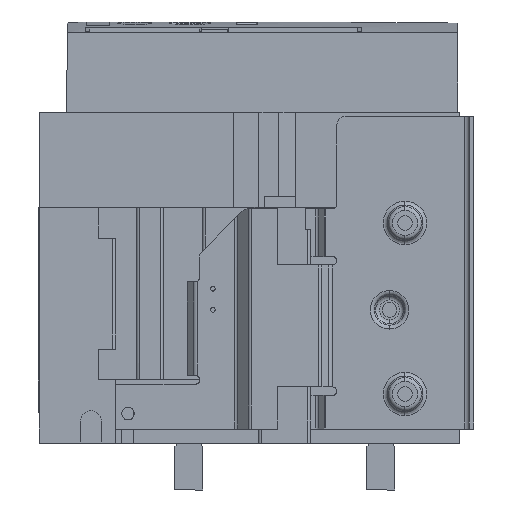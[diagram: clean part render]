
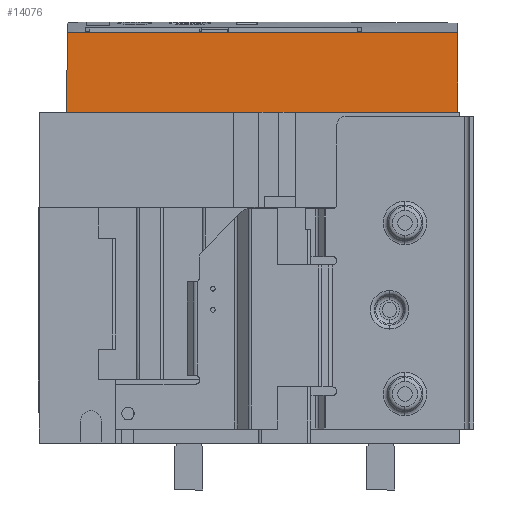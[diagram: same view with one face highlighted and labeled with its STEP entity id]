
A CAD part, left-side view. The second image highlights one B-rep face of the part: STEP entity #14076.
In plain terms, the highlighted planar face has unit normal (-1, 0, 0.009).
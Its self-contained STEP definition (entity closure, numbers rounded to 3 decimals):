
#494 = VECTOR ( 'NONE', #6833, 1000. ) ;
#5207 = DIRECTION ( 'NONE',  ( -0.009, -0.009, -1. ) ) ;
#6412 = VERTEX_POINT ( 'NONE', #34833 ) ;
#6833 = DIRECTION ( 'NONE',  ( -0.009, 0.009, -1. ) ) ;
#10880 = CARTESIAN_POINT ( 'NONE',  ( 26.562, 130.573, 582.803 ) ) ;
#14076 = ADVANCED_FACE ( 'NONE', ( #88786 ), #61428, .T. ) ;
#16595 = EDGE_CURVE ( 'NONE', #6412, #151948, #153575, .T. ) ;
#18585 = VECTOR ( 'NONE', #5207, 1000. ) ;
#28824 = ORIENTED_EDGE ( 'NONE', *, *, #84390, .T. ) ;
#30600 = ORIENTED_EDGE ( 'NONE', *, *, #152363, .T. ) ;
#30655 = ORIENTED_EDGE ( 'NONE', *, *, #117356, .F. ) ;
#31679 = LINE ( 'NONE', #10880, #37497 ) ;
#34833 = CARTESIAN_POINT ( 'NONE',  ( 26.068, 131.667, 526.153 ) ) ;
#37497 = VECTOR ( 'NONE', #135434, 1000. ) ;
#39798 = CARTESIAN_POINT ( 'NONE',  ( 26.562, 132.161, 582.803 ) ) ;
#41909 = AXIS2_PLACEMENT_3D ( 'NONE', #60414, #121677, #84796 ) ;
#43142 = DIRECTION ( 'NONE',  ( 0., 1., 0. ) ) ;
#60414 = CARTESIAN_POINT ( 'NONE',  ( 25.475, 130.573, 458.153 ) ) ;
#61428 = PLANE ( 'NONE',  #41909 ) ;
#67238 = CARTESIAN_POINT ( 'NONE',  ( 25.486, 131.084, 459.436 ) ) ;
#81333 = CARTESIAN_POINT ( 'NONE',  ( 25.496, 411.352, 460.603 ) ) ;
#84390 = EDGE_CURVE ( 'NONE', #149633, #97815, #31679, .T. ) ;
#84796 = DIRECTION ( 'NONE',  ( 0., 1., 0. ) ) ;
#88786 = FACE_OUTER_BOUND ( 'NONE', #148401, .T. ) ;
#95235 = CARTESIAN_POINT ( 'NONE',  ( 26.562, 410.285, 582.803 ) ) ;
#97775 = LINE ( 'NONE', #81333, #494 ) ;
#97815 = VERTEX_POINT ( 'NONE', #95235 ) ;
#117356 = EDGE_CURVE ( 'NONE', #149633, #6412, #127318, .T. ) ;
#121677 = DIRECTION ( 'NONE',  ( -1., 0., 0.009 ) ) ;
#123632 = CARTESIAN_POINT ( 'NONE',  ( 26.068, 410.78, 526.153 ) ) ;
#125314 = ORIENTED_EDGE ( 'NONE', *, *, #16595, .F. ) ;
#127318 = LINE ( 'NONE', #67238, #18585 ) ;
#135434 = DIRECTION ( 'NONE',  ( 0., 1., 0. ) ) ;
#137900 = VECTOR ( 'NONE', #43142, 1000. ) ;
#148401 = EDGE_LOOP ( 'NONE', ( #30600, #125314, #30655, #28824 ) ) ;
#149633 = VERTEX_POINT ( 'NONE', #39798 ) ;
#151948 = VERTEX_POINT ( 'NONE', #123632 ) ;
#152363 = EDGE_CURVE ( 'NONE', #97815, #151948, #97775, .T. ) ;
#153575 = LINE ( 'NONE', #154609, #137900 ) ;
#154609 = CARTESIAN_POINT ( 'NONE',  ( 26.068, 130.573, 526.153 ) ) ;
